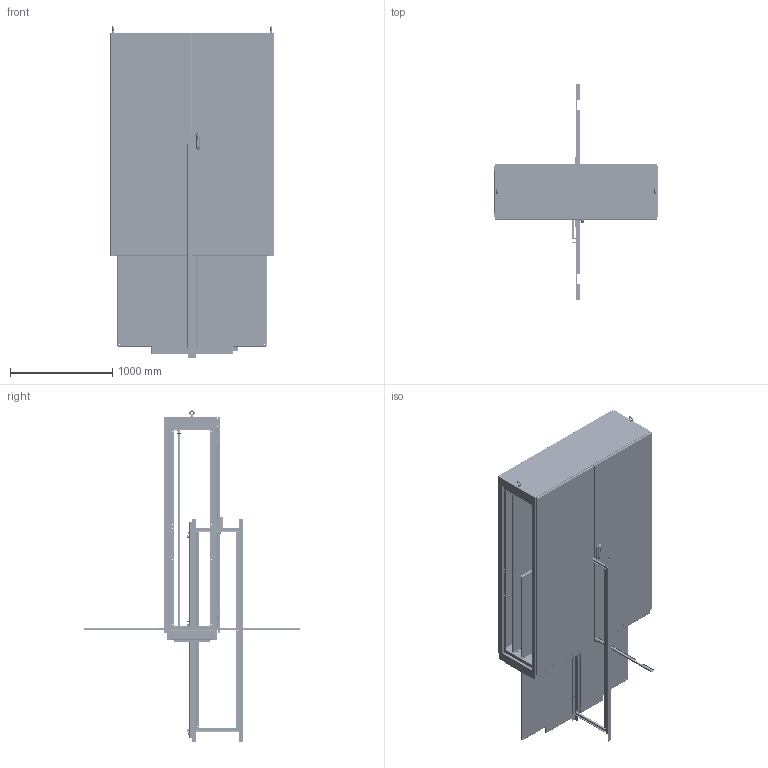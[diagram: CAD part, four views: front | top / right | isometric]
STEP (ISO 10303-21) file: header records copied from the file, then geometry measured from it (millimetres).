
FILE_DESCRIPTION( ( 'Unknown' ), '1' );
FILE_NAME( 'Q:/IME/WEB DRAWINGS/IMET20165.stp', 'Unknown', ( 'Unknown' ), ( 'Unknown' ), 'XStep 1.0', 'Unknown', ' ' );
FILE_SCHEMA( ( 'CONFIG_CONTROL_DESIGN' ) );
Length unit declared in the file: millimetre
Products named in the file (140): Assem1; Assem2; Assem3; Assem4; Assem5; Assem6; Assem7; Assem8; Assem9; Assem10; Assem11; Assem12; Assem13; Assem14; Assem15; Assem16; Assem17; Assem18; Assem19; Assem20; Assem21; Assem22; Assem23; Assem24; 1; 2; 3; 4; 5; 6; 7; 8; 9; 10; 11; 12; 13; 14; 15; 16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
Bounding box: 1600.2 x 2114.75 x 3250.37 mm (x, y, z)
Volume: 94486287.2 mm3; surface area: 96303208.4 mm2
Topology: 575 solids, 581 shells, 13360 faces, 33853 edges, 22127 vertices
Faces by surface type: plane 8425, cylinder 3937, torus 405, cone 354, bspline 239
Full cylindrical faces by diameter (mm): 2.464 x16, 3.175 x3, 3.454 x16, 3.607 x12, 4.039 x8, 4.166 x72, 4.216 x16, 4.318 x16, 4.826 x16, 4.851 x8, 4.928 x16, 5.08 x28, 5.105 x18, 5.156 x12, 5.537 x140, 5.842 x8, 5.893 x14, 5.994 x26, 6 x46, 6.35 x106, 6.411 x31, 7.137 x28, 7.366 x12, 7.442 x18, 7.62 x18, 7.938 x94, 8.001 x32, 8.026 x8, 9.525 x22, 9.804 x30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
Entity records: 99319 total; most frequent: CARTESIAN_POINT 23151, DIRECTION 14595, ORIENTED_EDGE 13762, EDGE_CURVE 6881, AXIS2_PLACEMENT_3D 4995, VERTEX_POINT 4685, LINE 4605, VECTOR 4605
